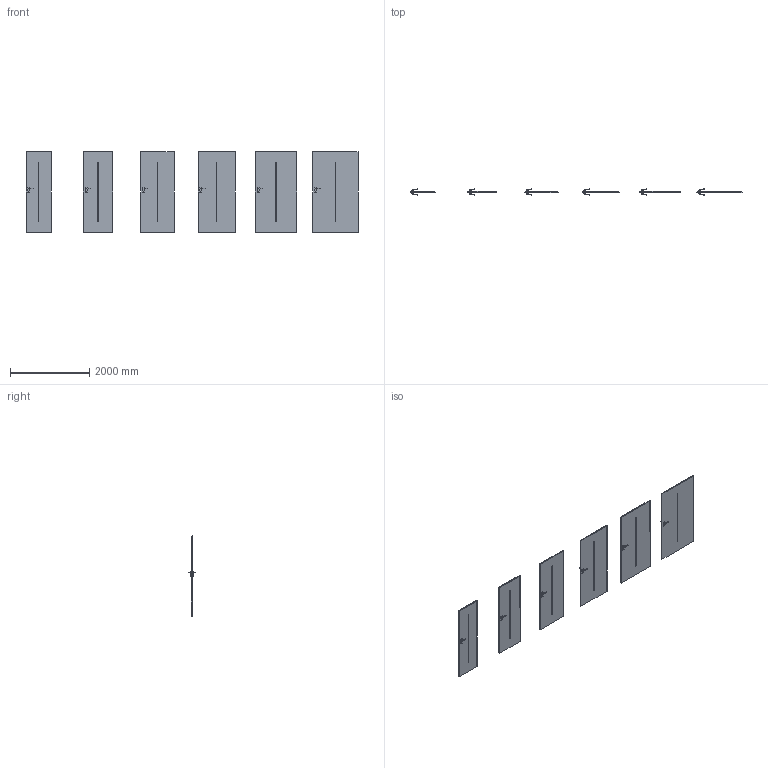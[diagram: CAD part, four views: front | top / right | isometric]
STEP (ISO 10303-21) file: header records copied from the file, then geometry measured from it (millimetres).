
FILE_DESCRIPTION(/* description */ (''),/* implementation_level */ '2;1');
FILE_NAME(/* name */ '049730_A_2-Skrzydło DESIRE model 6_ polska norma _PN__ przylgowe..stp',/* time_stamp */ '2024-02-29T11:33:15+01:00',/* author */ (''),/* organization */ (''),/* preprocessor_version */ 'ST-DEVELOPER v16',/* originating_system */ 'SIEMENS PLM Software NX 11.0',/* authorisation */ '');
FILE_SCHEMA (('AUTOMOTIVE_DESIGN { 1 0 10303 214 3 1 1 1 }'));
Length unit declared in the file: millimetre
Products named in the file (1): bkni4F842FC9m3zk
Bounding box: 8394 x 153.27 x 2030 mm (x, y, z)
Volume: 418580253.9 mm3; surface area: 23771293.5 mm2
Topology: 42 solids, 42 shells, 1200 faces, 2784 edges, 1560 vertices
Faces by surface type: plane 528, cylinder 312, bspline 192, sphere 168
Entity records: 39388 total; most frequent: CARTESIAN_POINT 13801, ORIENTED_EDGE 5232, DIRECTION 5090, EDGE_CURVE 2616, AXIS2_PLACEMENT_3D 1825, VERTEX_POINT 1560, LINE 1440, VECTOR 1440
